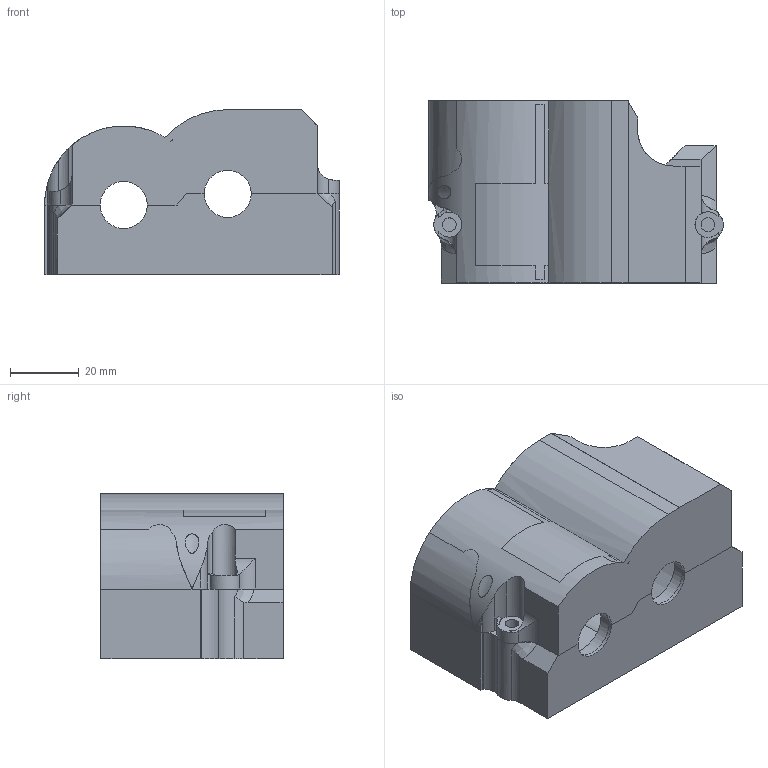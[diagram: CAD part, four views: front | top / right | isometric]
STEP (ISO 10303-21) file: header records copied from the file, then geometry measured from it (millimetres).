
FILE_DESCRIPTION(('FreeCAD Model'),'2;1');
FILE_NAME('Open CASCADE Shape Model','2025-12-16T22:35:48',('Author'),( ''),'Open CASCADE STEP processor 7.8','FreeCAD','Unknown');
FILE_SCHEMA(('AUTOMOTIVE_DESIGN { 1 0 10303 214 1 1 1 1 }'));
Length unit declared in the file: millimetre
Products named in the file (3): _7B_v1; 7A; 7B
Assembly tree (2 placements, depth 2):
  _7B_v1
    7A
    7B
Bounding box: 85.75 x 53 x 48.07 mm (x, y, z)
Volume: 77861.1 mm3; surface area: 32687.6 mm2
Topology: 2 solids, 2 shells, 172 faces, 521 edges, 352 vertices
Faces by surface type: plane 90, cylinder 75, bspline 3, cone 3, torus 1
Full cylindrical faces by diameter (mm): 3 x2, 4 x10
Entity records: 6772 total; most frequent: CARTESIAN_POINT 1942, ORIENTED_EDGE 1036, DIRECTION 976, EDGE_CURVE 518, VERTEX_POINT 352, AXIS2_PLACEMENT_3D 345, LINE 286, VECTOR 286
